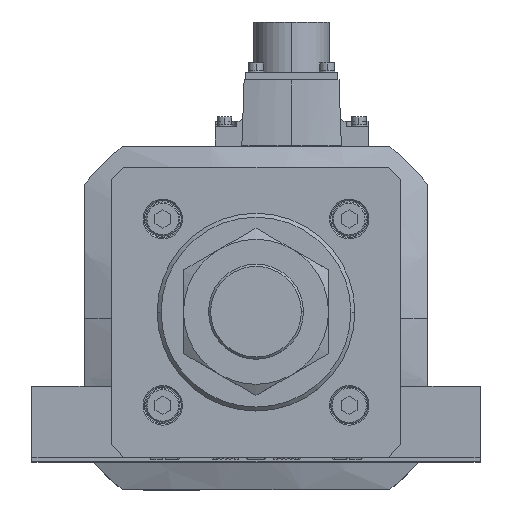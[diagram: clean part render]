
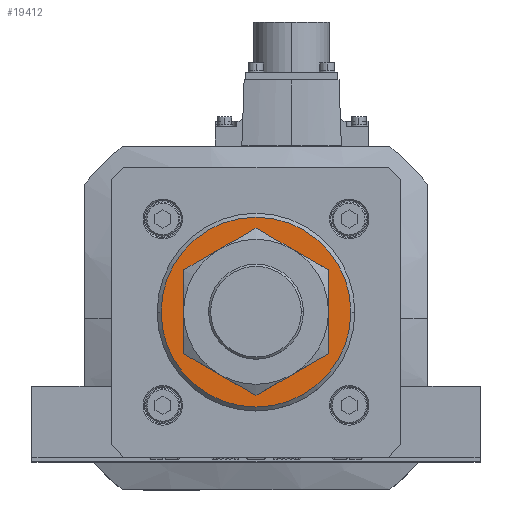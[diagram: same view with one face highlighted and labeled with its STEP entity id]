
A CAD part, top view. The second image highlights one B-rep face of the part: STEP entity #19412.
In plain terms, the highlighted planar face has unit normal (0, 0, 1).
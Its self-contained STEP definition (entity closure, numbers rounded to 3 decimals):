
#351 = CARTESIAN_POINT ( 'NONE',  ( 23., 0., 1046. ) ) ;
#364 = ORIENTED_EDGE ( 'NONE', *, *, #2128, .T. ) ;
#1097 = CARTESIAN_POINT ( 'NONE',  ( 0., 0., 1046. ) ) ;
#1847 = DIRECTION ( 'NONE',  ( 0., 0., -1. ) ) ;
#2128 = EDGE_CURVE ( 'NONE', #22519, #28674, #7494, .T. ) ;
#4425 = DIRECTION ( 'NONE',  ( 0., 0., 1. ) ) ;
#4809 = CARTESIAN_POINT ( 'NONE',  ( 0., 0., 1046. ) ) ;
#5159 = CARTESIAN_POINT ( 'NONE',  ( 0., 0., 1046. ) ) ;
#7494 = CIRCLE ( 'NONE', #33002, 23. ) ;
#7609 = EDGE_LOOP ( 'NONE', ( #364, #7648 ) ) ;
#7648 = ORIENTED_EDGE ( 'NONE', *, *, #34676, .T. ) ;
#8301 = AXIS2_PLACEMENT_3D ( 'NONE', #1097, #21734, #18919 ) ;
#12551 = CARTESIAN_POINT ( 'NONE',  ( 36., 0., 1046. ) ) ;
#12796 = EDGE_CURVE ( 'NONE', #23814, #33255, #18062, .T. ) ;
#13388 = FACE_BOUND ( 'NONE', #7609, .T. ) ;
#15003 = DIRECTION ( 'NONE',  ( 1., 0., 0. ) ) ;
#15077 = CARTESIAN_POINT ( 'NONE',  ( -23., 0., 1046. ) ) ;
#15120 = CARTESIAN_POINT ( 'NONE',  ( 0., 0., 1046. ) ) ;
#15477 = AXIS2_PLACEMENT_3D ( 'NONE', #30537, #4425, #33375 ) ;
#16602 = DIRECTION ( 'NONE',  ( 1., 0., 0. ) ) ;
#16737 = DIRECTION ( 'NONE',  ( 0., 0., 1. ) ) ;
#16882 = CARTESIAN_POINT ( 'NONE',  ( -36., 0., 1046. ) ) ;
#18062 = CIRCLE ( 'NONE', #36584, 36. ) ;
#18859 = AXIS2_PLACEMENT_3D ( 'NONE', #15120, #32380, #15003 ) ;
#18919 = DIRECTION ( 'NONE',  ( 1., 0., 0. ) ) ;
#19036 = DIRECTION ( 'NONE',  ( 1., 0., 0. ) ) ;
#19412 = ADVANCED_FACE ( 'NONE', ( #13388, #33491 ), #27204, .T. ) ;
#21734 = DIRECTION ( 'NONE',  ( 0., 0., -1. ) ) ;
#22519 = VERTEX_POINT ( 'NONE', #351 ) ;
#23814 = VERTEX_POINT ( 'NONE', #12551 ) ;
#25025 = CIRCLE ( 'NONE', #18859, 36. ) ;
#25193 = CIRCLE ( 'NONE', #8301, 23. ) ;
#26318 = ORIENTED_EDGE ( 'NONE', *, *, #12796, .T. ) ;
#27204 = PLANE ( 'NONE',  #15477 ) ;
#28674 = VERTEX_POINT ( 'NONE', #15077 ) ;
#29904 = EDGE_LOOP ( 'NONE', ( #30776, #26318 ) ) ;
#30537 = CARTESIAN_POINT ( 'NONE',  ( 0., 0., 1046. ) ) ;
#30776 = ORIENTED_EDGE ( 'NONE', *, *, #37751, .T. ) ;
#32380 = DIRECTION ( 'NONE',  ( 0., 0., 1. ) ) ;
#33002 = AXIS2_PLACEMENT_3D ( 'NONE', #4809, #1847, #19036 ) ;
#33255 = VERTEX_POINT ( 'NONE', #16882 ) ;
#33375 = DIRECTION ( 'NONE',  ( 1., 0., 0. ) ) ;
#33491 = FACE_OUTER_BOUND ( 'NONE', #29904, .T. ) ;
#34676 = EDGE_CURVE ( 'NONE', #28674, #22519, #25193, .T. ) ;
#36584 = AXIS2_PLACEMENT_3D ( 'NONE', #5159, #16737, #16602 ) ;
#37751 = EDGE_CURVE ( 'NONE', #33255, #23814, #25025, .T. ) ;
